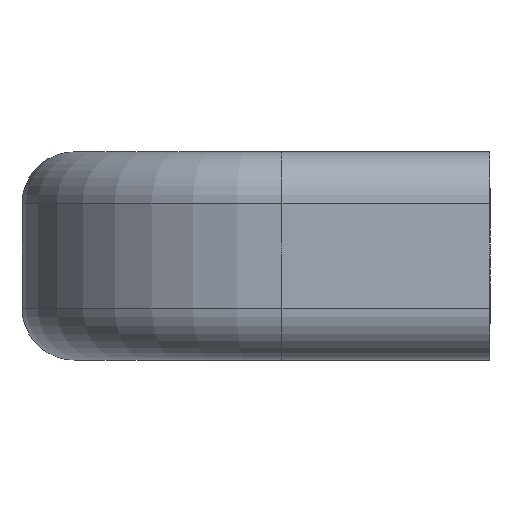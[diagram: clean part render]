
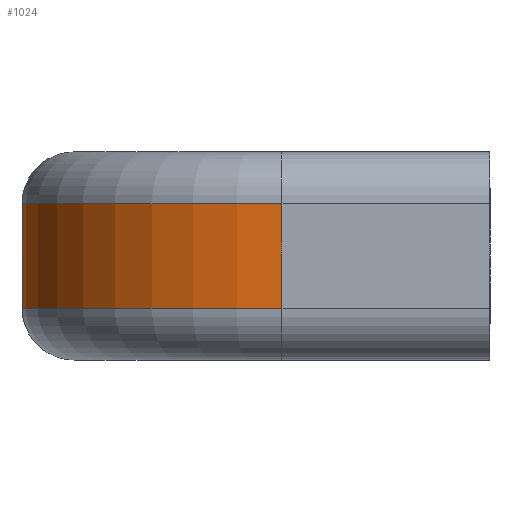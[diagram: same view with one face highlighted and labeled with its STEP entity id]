
A CAD part, left-side view. The second image highlights one B-rep face of the part: STEP entity #1024.
In plain terms, the highlighted cylindrical face has radius 25 mm (diameter 50 mm), a partial arc.
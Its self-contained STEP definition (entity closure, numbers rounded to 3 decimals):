
#330 = CARTESIAN_POINT ( 'NONE',  ( -105., 20., -5. ) ) ;
#577 = DIRECTION ( 'NONE',  ( -1., 0., 0. ) ) ;
#578 = DIRECTION ( 'NONE',  ( 0., 0., -1. ) ) ;
#579 = CARTESIAN_POINT ( 'NONE',  ( -80., 20., 5. ) ) ;
#580 = AXIS2_PLACEMENT_3D ( 'NONE', #579, #578, #577 ) ;
#581 = CIRCLE ( 'NONE', #580, 25. ) ;
#610 = CARTESIAN_POINT ( 'NONE',  ( -80., 45., 5. ) ) ;
#616 = DIRECTION ( 'NONE',  ( -1., 0., 0. ) ) ;
#617 = DIRECTION ( 'NONE',  ( 0., 0., -1. ) ) ;
#618 = CARTESIAN_POINT ( 'NONE',  ( -80., 20., 0. ) ) ;
#619 = AXIS2_PLACEMENT_3D ( 'NONE', #618, #617, #616 ) ;
#620 = CYLINDRICAL_SURFACE ( 'NONE', #619, 25. ) ;
#621 = FACE_OUTER_BOUND ( 'NONE', #1025, .T. ) ;
#622 = CARTESIAN_POINT ( 'NONE',  ( -105., 20., 5. ) ) ;
#623 = DIRECTION ( 'NONE',  ( 0., 0., 1. ) ) ;
#624 = VECTOR ( 'NONE', #623, 1000. ) ;
#625 = CARTESIAN_POINT ( 'NONE',  ( -105., 20., 5. ) ) ;
#626 = LINE ( 'NONE', #625, #624 ) ;
#647 = DIRECTION ( 'NONE',  ( -1., 0., 0. ) ) ;
#648 = DIRECTION ( 'NONE',  ( 0., 0., -1. ) ) ;
#649 = CARTESIAN_POINT ( 'NONE',  ( -80., 20., -5. ) ) ;
#650 = AXIS2_PLACEMENT_3D ( 'NONE', #649, #648, #647 ) ;
#651 = CIRCLE ( 'NONE', #650, 25. ) ;
#653 = CARTESIAN_POINT ( 'NONE',  ( -80., 45., -5. ) ) ;
#654 = DIRECTION ( 'NONE',  ( 0., 0., 1. ) ) ;
#655 = VECTOR ( 'NONE', #654, 1000. ) ;
#656 = CARTESIAN_POINT ( 'NONE',  ( -80., 45., 5. ) ) ;
#657 = LINE ( 'NONE', #656, #655 ) ;
#881 = VERTEX_POINT ( 'NONE', #330 ) ;
#1013 = ORIENTED_EDGE ( 'NONE', *, *, #1014, .T. ) ;
#1014 = EDGE_CURVE ( 'NONE', #1022, #1030, #581, .T. ) ;
#1020 = ORIENTED_EDGE ( 'NONE', *, *, #1021, .T. ) ;
#1021 = EDGE_CURVE ( 'NONE', #881, #1022, #626, .T. ) ;
#1022 = VERTEX_POINT ( 'NONE', #622 ) ;
#1024 = ADVANCED_FACE ( 'NONE', ( #621 ), #620, .T. ) ;
#1025 = EDGE_LOOP ( 'NONE', ( #1020, #1013, #1047, #1048 ) ) ;
#1030 = VERTEX_POINT ( 'NONE', #610 ) ;
#1040 = EDGE_CURVE ( 'NONE', #1041, #1030, #657, .T. ) ;
#1041 = VERTEX_POINT ( 'NONE', #653 ) ;
#1047 = ORIENTED_EDGE ( 'NONE', *, *, #1040, .F. ) ;
#1048 = ORIENTED_EDGE ( 'NONE', *, *, #1049, .F. ) ;
#1049 = EDGE_CURVE ( 'NONE', #881, #1041, #651, .T. ) ;
